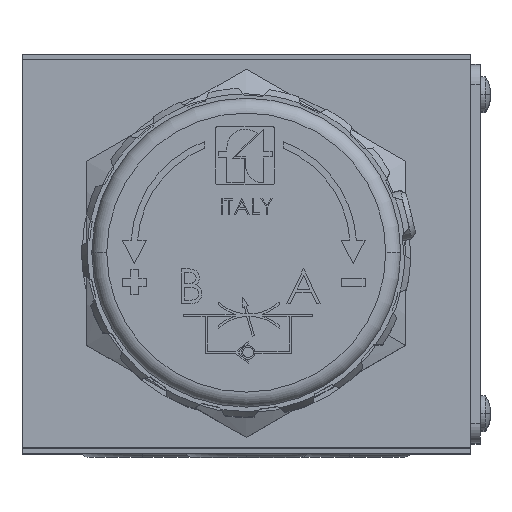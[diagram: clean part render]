
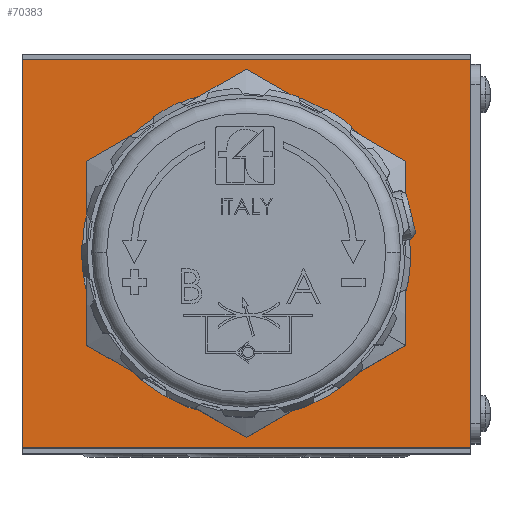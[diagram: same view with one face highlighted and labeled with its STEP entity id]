
A CAD part, top view. The second image highlights one B-rep face of the part: STEP entity #70383.
In plain terms, the highlighted planar face has unit normal (0, 0, 1).
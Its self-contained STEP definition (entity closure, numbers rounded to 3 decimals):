
#315 = FACE_BOUND ( 'NONE', #58225, .T. ) ;
#542 = CARTESIAN_POINT ( 'NONE',  ( -22.5, 19.5, 47.5 ) ) ;
#1170 = CARTESIAN_POINT ( 'NONE',  ( -22.5, -19.5, 47.5 ) ) ;
#1523 = CIRCLE ( 'NONE', #78119, 16.5 ) ;
#2592 = VERTEX_POINT ( 'NONE', #5003 ) ;
#5003 = CARTESIAN_POINT ( 'NONE',  ( 22.5, 19.5, 47.5 ) ) ;
#5713 = CARTESIAN_POINT ( 'NONE',  ( 0., 0., 47.5 ) ) ;
#6538 = CARTESIAN_POINT ( 'NONE',  ( 22.5, -19.5, 47.5 ) ) ;
#7726 = ORIENTED_EDGE ( 'NONE', *, *, #9912, .T. ) ;
#9912 = EDGE_CURVE ( 'NONE', #98633, #22080, #30785, .T. ) ;
#14459 = DIRECTION ( 'NONE',  ( 1., 0., 0. ) ) ;
#19915 = CARTESIAN_POINT ( 'NONE',  ( 22.5, 20., 47.5 ) ) ;
#20238 = LINE ( 'NONE', #542, #110682 ) ;
#20504 = EDGE_CURVE ( 'NONE', #98633, #2592, #20238, .T. ) ;
#20807 = FACE_OUTER_BOUND ( 'NONE', #111329, .T. ) ;
#22080 = VERTEX_POINT ( 'NONE', #25403 ) ;
#25403 = CARTESIAN_POINT ( 'NONE',  ( -22.5, -19.5, 47.5 ) ) ;
#28868 = VECTOR ( 'NONE', #71218, 1000. ) ;
#30785 = LINE ( 'NONE', #101493, #100674 ) ;
#31455 = EDGE_CURVE ( 'NONE', #59378, #2592, #79196, .T. ) ;
#31649 = CARTESIAN_POINT ( 'NONE',  ( -16.5, 0., 47.5 ) ) ;
#32026 = CARTESIAN_POINT ( 'NONE',  ( -22.5, 19.5, 47.5 ) ) ;
#33307 = AXIS2_PLACEMENT_3D ( 'NONE', #49914, #111166, #58738 ) ;
#33789 = AXIS2_PLACEMENT_3D ( 'NONE', #44276, #106677, #54215 ) ;
#35661 = VERTEX_POINT ( 'NONE', #31649 ) ;
#36563 = ORIENTED_EDGE ( 'NONE', *, *, #108271, .F. ) ;
#44276 = CARTESIAN_POINT ( 'NONE',  ( -22.5, -20., 47.5 ) ) ;
#45395 = PLANE ( 'NONE',  #33789 ) ;
#46667 = EDGE_CURVE ( 'NONE', #35661, #112342, #107528, .T. ) ;
#49914 = CARTESIAN_POINT ( 'NONE',  ( 0., 0., 47.5 ) ) ;
#50427 = ORIENTED_EDGE ( 'NONE', *, *, #31455, .T. ) ;
#53423 = DIRECTION ( 'NONE',  ( 1., 0., 0. ) ) ;
#54215 = DIRECTION ( 'NONE',  ( 1., 0., 0. ) ) ;
#54825 = DIRECTION ( 'NONE',  ( 0., 1., 0. ) ) ;
#55849 = VECTOR ( 'NONE', #54825, 1000. ) ;
#58225 = EDGE_LOOP ( 'NONE', ( #83189, #111297 ) ) ;
#58738 = DIRECTION ( 'NONE',  ( 1., 0., 0. ) ) ;
#59378 = VERTEX_POINT ( 'NONE', #6538 ) ;
#66619 = DIRECTION ( 'NONE',  ( 0., -1., 0. ) ) ;
#66956 = DIRECTION ( 'NONE',  ( 0., 0., 1. ) ) ;
#70383 = ADVANCED_FACE ( 'NONE', ( #315, #20807 ), #45395, .T. ) ;
#71218 = DIRECTION ( 'NONE',  ( -1., 0., 0. ) ) ;
#78119 = AXIS2_PLACEMENT_3D ( 'NONE', #5713, #66956, #14459 ) ;
#79196 = LINE ( 'NONE', #19915, #55849 ) ;
#79865 = ORIENTED_EDGE ( 'NONE', *, *, #20504, .F. ) ;
#83189 = ORIENTED_EDGE ( 'NONE', *, *, #88197, .F. ) ;
#88197 = EDGE_CURVE ( 'NONE', #112342, #35661, #1523, .T. ) ;
#93260 = LINE ( 'NONE', #1170, #28868 ) ;
#98633 = VERTEX_POINT ( 'NONE', #32026 ) ;
#100674 = VECTOR ( 'NONE', #66619, 1000. ) ;
#101367 = CARTESIAN_POINT ( 'NONE',  ( 16.5, 0., 47.5 ) ) ;
#101493 = CARTESIAN_POINT ( 'NONE',  ( -22.5, 20., 47.5 ) ) ;
#106677 = DIRECTION ( 'NONE',  ( 0., 0., 1. ) ) ;
#107528 = CIRCLE ( 'NONE', #33307, 16.5 ) ;
#108271 = EDGE_CURVE ( 'NONE', #59378, #22080, #93260, .T. ) ;
#110682 = VECTOR ( 'NONE', #53423, 1000. ) ;
#111166 = DIRECTION ( 'NONE',  ( 0., 0., 1. ) ) ;
#111297 = ORIENTED_EDGE ( 'NONE', *, *, #46667, .F. ) ;
#111329 = EDGE_LOOP ( 'NONE', ( #36563, #50427, #79865, #7726 ) ) ;
#112342 = VERTEX_POINT ( 'NONE', #101367 ) ;
